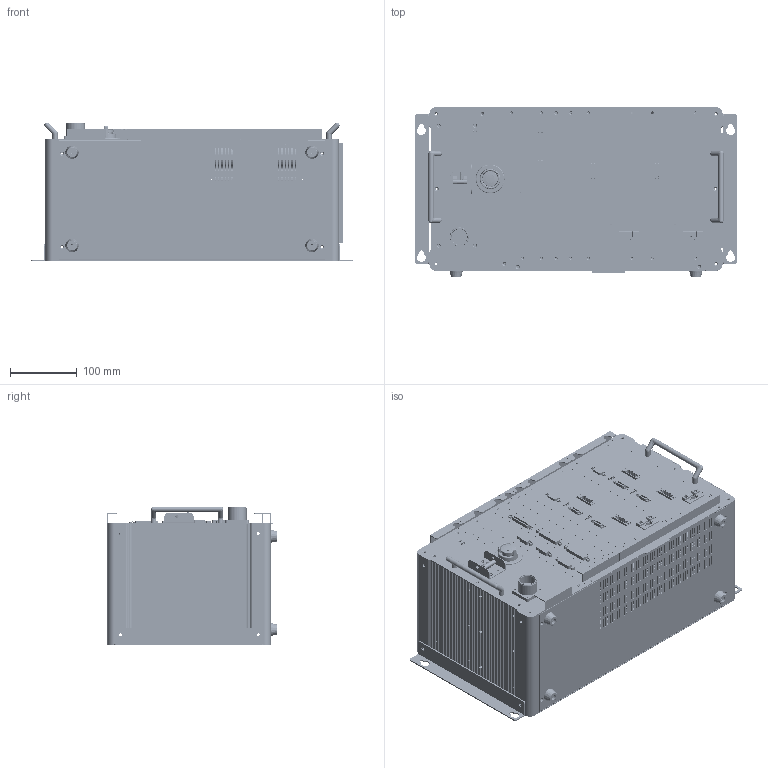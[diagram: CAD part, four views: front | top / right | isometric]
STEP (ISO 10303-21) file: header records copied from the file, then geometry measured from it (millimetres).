
FILE_DESCRIPTION((''),'2;1');
FILE_NAME('ASSY-4AXIS-CASE_ASM','2014-09-03T',('cwpark'),(''),'PRO/ENGINEER BY PARAMETRIC TECHNOLOGY CORPORATION, 2011490','PRO/ENGINEER BY PARAMETRIC TECHNOLOGY CORPORATION, 2011490','');
FILE_SCHEMA(('CONFIG_CONTROL_DESIGN'));
Products named in the file (47): COVER-SIDE; COVER-BOTTOM; COVER-TOP; PCB-GUIDE-BOTTOM-4AXIS; PCB-GUIDE-TOP-4AXIS; PANEL-BACK; BKT-FAN; N1-SYSTEM-IO-46AXIS; N1-COVER-PCB-SERVO-46AXIS; ASSY-RCQ-SV-MAIN; NI-COVER-MAIN-46AXIS; BKT-FAN-B-AXIS; ASSY-PCB-SERVO-POWER; ASSY-PCB-MAIN; ASSY_PCB-4AXIS_BACKPLANE; ASSY-SYSTEM_IO; FAN-60MM; CASE-FILTER; COVER-FILTER-4AXIS; WINDOW-SEGEMENT; DFK-MSTB_2_5-2-GF-5_08-82260; POWER_20A_COVER; SWITCH-EMERGENCY-6AXIS; PCB-EQUIP_BOARD; SERVO-MAIN-CONNECTOR-1; SERVO-POWER-CONNECTOR-2; LED2; 20A_BRK; ASSY-PCB-EQUIP_BOARD_ASM; HANDLE222; CIRCUIT_PROTECTOR_AF0; CIRCUIT_PROTECTOR_AF1; LEVER_AF0; BRACKET_WALL; CIRCUIT_PROTECTOR_ASSY_ASM; POWER_CONNECTOR_MS3102A_18; POWER_20A_ASM; COVER-SIDE-RIGHT_; PANEL-FRONT-RIGHT-6CASE_; HANDLE222_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
Assembly tree (57 placements, depth 4):
  ASSY-4AXIS-CASE_ASM
    COVER-SIDE
    COVER-BOTTOM
    COVER-TOP
    PCB-GUIDE-BOTTOM-4AXIS
    PCB-GUIDE-TOP-4AXIS
    PANEL-BACK
    BKT-FAN
    N1-SYSTEM-IO-46AXIS
    N1-COVER-PCB-SERVO-46AXIS  x2
    ASSY-RCQ-SV-MAIN  x2
    NI-COVER-MAIN-46AXIS
    BKT-FAN-B-AXIS
    ASSY-PCB-SERVO-POWER  x2
    ASSY-PCB-MAIN
    ASSY_PCB-4AXIS_BACKPLANE
    ASSY-SYSTEM_IO
    FAN-60MM  x3
    CASE-FILTER
    COVER-FILTER-4AXIS
    WINDOW-SEGEMENT
    DFK-MSTB_2_5-2-GF-5_08-82260  x2
    POWER_20A_ASM
      POWER_20A_COVER
      SWITCH-EMERGENCY-6AXIS
      ASSY-PCB-EQUIP_BOARD_ASM
        PCB-EQUIP_BOARD
        SERVO-MAIN-CONNECTOR-1
        SERVO-POWER-CONNECTOR-2
        LED2
        20A_BRK
      HANDLE222
      CIRCUIT_PROTECTOR_ASSY_ASM
        CIRCUIT_PROTECTOR_AF0
        CIRCUIT_PROTECTOR_AF1
        LEVER_AF0
        BRACKET_WALL
      POWER_CONNECTOR_MS3102A_18
    ASSY-RIGHT_ASM
      COVER-SIDE-RIGHT_
      PANEL-FRONT-RIGHT-6CASE_
      HANDLE222_
    N1-DUMMY_  x2
    FOTT  x4
    REG_200W  x2
    RACK_BRAKET_REV4_LEFT
    RACK_BRAKET_REV4_RIGHT
Bounding box: 483 x 256.2 x 208.3 mm (x, y, z)
Volume: 2384035.1 mm3; surface area: 2364473.2 mm2
Topology: 159 solids, 159 shells, 14872 faces, 40175 edges, 26574 vertices
Faces by surface type: plane 8365, cylinder 6083, cone 202, torus 100, bspline 70, sphere 52
Entity records: 419700 total; most frequent: CARTESIAN_POINT 75094, DIRECTION 71674, ORIENTED_EDGE 70088, EDGE_CURVE 35044, VECTOR 23954, LINE 23954, AXIS2_PLACEMENT_3D 23860, VERTEX_POINT 23206
